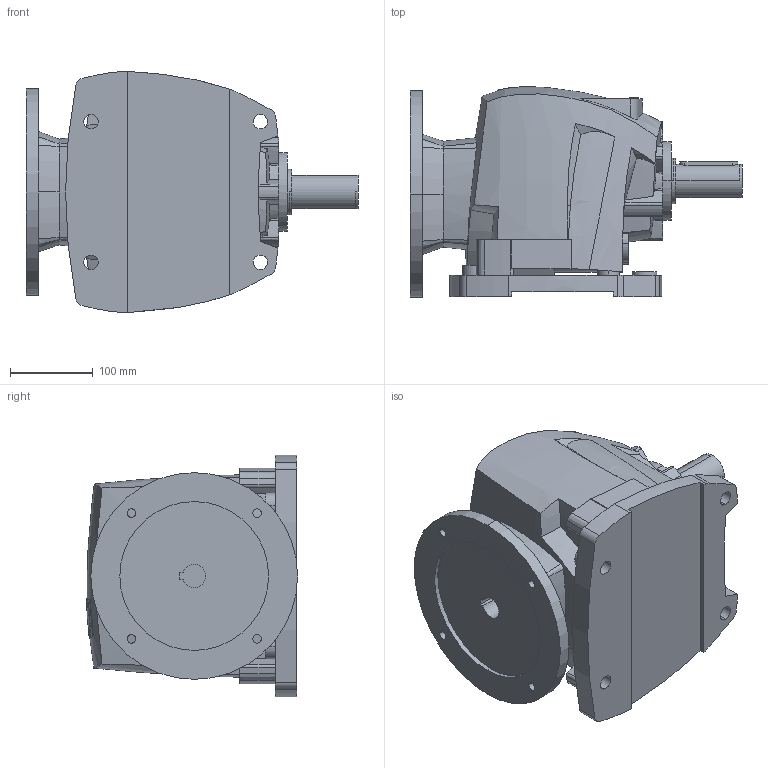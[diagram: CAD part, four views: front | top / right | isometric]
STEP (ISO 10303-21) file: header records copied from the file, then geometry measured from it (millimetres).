
FILE_DESCRIPTION((''),'2;1');
FILE_NAME('R40_SW_PAM100112','2013-11-28T',('Luca'),(''),'PRO/ENGINEER BY PARAMETRIC TECHNOLOGY CORPORATION, 2008230','PRO/ENGINEER BY PARAMETRIC TECHNOLOGY CORPORATION, 2008230','');
FILE_SCHEMA(('CONFIG_CONTROL_DESIGN'));
Length unit declared in the file: millimetre
Products named in the file (1): R40_SW_PAM100112
Bounding box: 401.5 x 255.36 x 292.31 mm (x, y, z)
Volume: 12625389.8 mm3; surface area: 545636.4 mm2
Topology: 1 solids, 5 shells, 465 faces, 1296 edges, 872 vertices
Faces by surface type: cylinder 164, plane 148, bspline 86, extrusion 39, cone 20, torus 8
Entity records: 19912 total; most frequent: CARTESIAN_POINT 8805, ORIENTED_EDGE 2588, DIRECTION 1812, EDGE_CURVE 1294, VERTEX_POINT 872, AXIS2_PLACEMENT_3D 614, VECTOR 584, LINE 545
